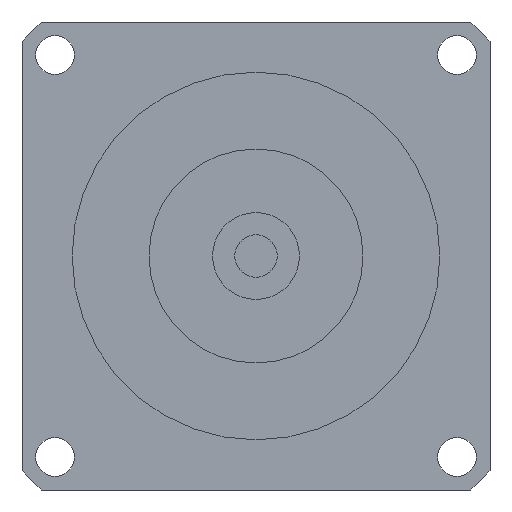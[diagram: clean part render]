
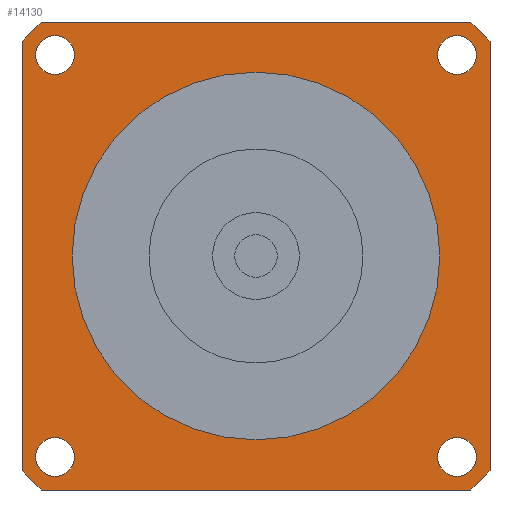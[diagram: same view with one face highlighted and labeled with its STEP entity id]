
A CAD part, left-side view. The second image highlights one B-rep face of the part: STEP entity #14130.
In plain terms, the highlighted planar face has unit normal (-1, 0, 0) as drawn and (0, 0, -1) by its records, which use the part's own axes.
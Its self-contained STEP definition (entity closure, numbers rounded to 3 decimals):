
#8940=CARTESIAN_POINT('',(27.152,-30.052,-37.1));
#8950=VERTEX_POINT('',#8940);
#8980=CARTESIAN_POINT('',(30.052,-30.052,-37.1));
#8990=DIRECTION('',(0.,0.,-1.));
#9000=DIRECTION('',(1.,0.,0.));
#9010=AXIS2_PLACEMENT_3D('',#8980,#8990,#9000);
#9020=CIRCLE('',#9010,2.9);
#9030=CARTESIAN_POINT('',(32.952,-30.052,-37.1));
#9040=VERTEX_POINT('',#9030);
#9050=EDGE_CURVE('',#9040,#8950,#9020,.T.);
#9290=CARTESIAN_POINT('',(-35.,-32.113,-37.1));
#9300=VERTEX_POINT('',#9290);
#9350=CARTESIAN_POINT('',(-35.,-35.,-37.1));
#9360=DIRECTION('',(0.,1.,0.));
#9370=VECTOR('',#9360,1000.);
#9380=LINE('',#9350,#9370);
#9390=CARTESIAN_POINT('',(-35.,32.113,-37.1));
#9400=VERTEX_POINT('',#9390);
#9410=EDGE_CURVE('',#9300,#9400,#9380,.T.);
#12650=CARTESIAN_POINT('',(-30.052,-27.152,-37.1));
#12660=VERTEX_POINT('',#12650);
#12690=CARTESIAN_POINT('',(-30.052,-30.052,-37.1));
#12700=DIRECTION('',(0.,0.,-1.));
#12710=DIRECTION('',(0.,-1.,0.));
#12720=AXIS2_PLACEMENT_3D('',#12690,#12700,#12710);
#12730=CIRCLE('',#12720,2.9);
#12740=CARTESIAN_POINT('',(-30.052,-32.952,-37.1));
#12750=VERTEX_POINT('',#12740);
#12760=EDGE_CURVE('',#12750,#12660,#12730,.T.);
#12880=CARTESIAN_POINT('',(35.,35.,-37.1));
#12890=DIRECTION('',(0.,0.,-1.));
#12900=DIRECTION('',(1.,0.,0.));
#12910=AXIS2_PLACEMENT_3D('',#12880,#12890,#12900);
#12920=PLANE('',#12910);
#12930=ORIENTED_EDGE('',*,*,#12760,.F.);
#12940=EDGE_CURVE('',#12660,#12750,#12730,.T.);
#12950=ORIENTED_EDGE('',*,*,#12940,.F.);
#12960=EDGE_LOOP('',(#12950,#12930));
#12970=FACE_BOUND('',#12960,.T.);
#12980=CARTESIAN_POINT('',(-30.052,30.052,-37.1));
#12990=DIRECTION('',(0.,0.,-1.));
#13000=DIRECTION('',(-1.,0.,0.));
#13010=AXIS2_PLACEMENT_3D('',#12980,#12990,#13000);
#13020=CIRCLE('',#13010,2.9);
#13030=CARTESIAN_POINT('',(-32.952,30.052,-37.1));
#13040=VERTEX_POINT('',#13030);
#13050=CARTESIAN_POINT('',(-27.152,30.052,-37.1));
#13060=VERTEX_POINT('',#13050);
#13070=EDGE_CURVE('',#13040,#13060,#13020,.T.);
#13080=ORIENTED_EDGE('',*,*,#13070,.F.);
#13090=EDGE_CURVE('',#13060,#13040,#13020,.T.);
#13100=ORIENTED_EDGE('',*,*,#13090,.F.);
#13110=EDGE_LOOP('',(#13100,#13080));
#13120=FACE_BOUND('',#13110,.T.);
#13130=CARTESIAN_POINT('',(30.052,30.052,-37.1));
#13140=DIRECTION('',(0.,0.,-1.));
#13150=DIRECTION('',(0.,1.,0.));
#13160=AXIS2_PLACEMENT_3D('',#13130,#13140,#13150);
#13170=CIRCLE('',#13160,2.9);
#13180=CARTESIAN_POINT('',(30.052,32.952,-37.1));
#13190=VERTEX_POINT('',#13180);
#13200=CARTESIAN_POINT('',(30.052,27.152,-37.1));
#13210=VERTEX_POINT('',#13200);
#13220=EDGE_CURVE('',#13190,#13210,#13170,.T.);
#13230=ORIENTED_EDGE('',*,*,#13220,.F.);
#13240=EDGE_CURVE('',#13210,#13190,#13170,.T.);
#13250=ORIENTED_EDGE('',*,*,#13240,.F.);
#13260=EDGE_LOOP('',(#13250,#13230));
#13270=FACE_BOUND('',#13260,.T.);
#13280=CARTESIAN_POINT('',(0.,0.,
-37.1));
#13290=DIRECTION('',(0.,0.,1.));
#13300=DIRECTION('',(0.,1.,0.));
#13310=AXIS2_PLACEMENT_3D('',#13280,#13290,#13300);
#13320=CIRCLE('',#13310,27.5);
#13330=CARTESIAN_POINT('',(-27.5,0.,-37.1));
#13340=VERTEX_POINT('',#13330);
#13350=CARTESIAN_POINT('',(27.5,0.,-37.1));
#13360=VERTEX_POINT('',#13350);
#13370=EDGE_CURVE('',#13340,#13360,#13320,.T.);
#13380=ORIENTED_EDGE('',*,*,#13370,.T.);
#13390=CARTESIAN_POINT('',(0.,27.5,-37.1));
#13400=VERTEX_POINT('',#13390);
#13410=EDGE_CURVE('',#13400,#13340,#13320,.T.);
#13420=ORIENTED_EDGE('',*,*,#13410,.T.);
#13430=EDGE_CURVE('',#13360,#13400,#13320,.T.);
#13440=ORIENTED_EDGE('',*,*,#13430,.T.);
#13450=EDGE_LOOP('',(#13440,#13420,#13380));
#13460=FACE_BOUND('',#13450,.T.);
#13470=CARTESIAN_POINT('',(-35.,35.,-37.1));
#13480=DIRECTION('',(1.,0.,0.));
#13490=VECTOR('',#13480,1000.);
#13500=LINE('',#13470,#13490);
#13510=CARTESIAN_POINT('',(-32.113,35.,-37.1));
#13520=VERTEX_POINT('',#13510);
#13530=CARTESIAN_POINT('',(32.113,35.,-37.1));
#13540=VERTEX_POINT('',#13530);
#13550=EDGE_CURVE('',#13520,#13540,#13500,.T.);
#13560=ORIENTED_EDGE('',*,*,#13550,.T.);
#13570=CARTESIAN_POINT('',(0.,0.,-37.1));
#13580=DIRECTION('',(0.,0.,-1.));
#13590=DIRECTION('',(1.,0.,0.));
#13600=AXIS2_PLACEMENT_3D('',#13570,#13580,#13590);
#13610=CIRCLE('',#13600,47.5);
#13620=EDGE_CURVE('',#9400,#13520,#13610,.T.);
#13630=ORIENTED_EDGE('',*,*,#13620,.T.);
#13640=ORIENTED_EDGE('',*,*,#9410,.T.);
#13650=CARTESIAN_POINT('',(0.,0.,-37.1));
#13660=DIRECTION('',(0.,0.,-1.));
#13670=DIRECTION('',(1.,0.,0.));
#13680=AXIS2_PLACEMENT_3D('',#13650,#13660,#13670);
#13690=CIRCLE('',#13680,47.5);
#13700=CARTESIAN_POINT('',(-32.113,-35.,-37.1));
#13710=VERTEX_POINT('',#13700);
#13720=EDGE_CURVE('',#13710,#9300,#13690,.T.);
#13730=ORIENTED_EDGE('',*,*,#13720,.T.);
#13740=CARTESIAN_POINT('',(35.,-35.,-37.1));
#13750=DIRECTION('',(-1.,0.,0.));
#13760=VECTOR('',#13750,1000.);
#13770=LINE('',#13740,#13760);
#13780=CARTESIAN_POINT('',(32.113,-35.,-37.1));
#13790=VERTEX_POINT('',#13780);
#13800=EDGE_CURVE('',#13790,#13710,#13770,.T.);
#13810=ORIENTED_EDGE('',*,*,#13800,.T.);
#13820=CARTESIAN_POINT('',(0.,0.,-37.1));
#13830=DIRECTION('',(0.,0.,-1.));
#13840=DIRECTION('',(1.,0.,0.));
#13850=AXIS2_PLACEMENT_3D('',#13820,#13830,#13840);
#13860=CIRCLE('',#13850,47.5);
#13870=CARTESIAN_POINT('',(35.,-32.113,-37.1));
#13880=VERTEX_POINT('',#13870);
#13890=EDGE_CURVE('',#13880,#13790,#13860,.T.);
#13900=ORIENTED_EDGE('',*,*,#13890,.T.);
#13910=CARTESIAN_POINT('',(35.,35.,-37.1));
#13920=DIRECTION('',(0.,-1.,0.));
#13930=VECTOR('',#13920,1000.);
#13940=LINE('',#13910,#13930);
#13950=CARTESIAN_POINT('',(35.,32.113,-37.1));
#13960=VERTEX_POINT('',#13950);
#13970=EDGE_CURVE('',#13960,#13880,#13940,.T.);
#13980=ORIENTED_EDGE('',*,*,#13970,.T.);
#13990=CARTESIAN_POINT('',(0.,0.,-37.1));
#14000=DIRECTION('',(0.,0.,-1.));
#14010=DIRECTION('',(1.,0.,0.));
#14020=AXIS2_PLACEMENT_3D('',#13990,#14000,#14010);
#14030=CIRCLE('',#14020,47.5);
#14040=EDGE_CURVE('',#13540,#13960,#14030,.T.);
#14050=ORIENTED_EDGE('',*,*,#14040,.T.);
#14060=EDGE_LOOP('',(#14050,#13980,#13900,#13810,#13730,#13640,#13630,
#13560));
#14070=FACE_OUTER_BOUND('',#14060,.T.);
#14080=ORIENTED_EDGE('',*,*,#9050,.F.);
#14090=EDGE_CURVE('',#8950,#9040,#9020,.T.);
#14100=ORIENTED_EDGE('',*,*,#14090,.F.);
#14110=EDGE_LOOP('',(#14100,#14080));
#14120=FACE_BOUND('',#14110,.T.);
#14130=ADVANCED_FACE('',(#12970,#13120,#13270,#13460,#14070,#14120),
#12920,.T.);
